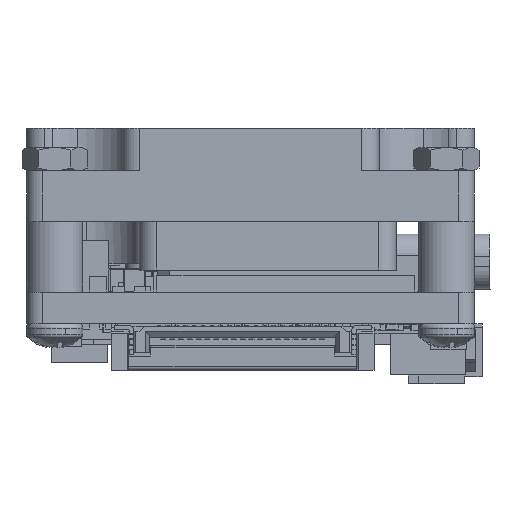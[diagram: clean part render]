
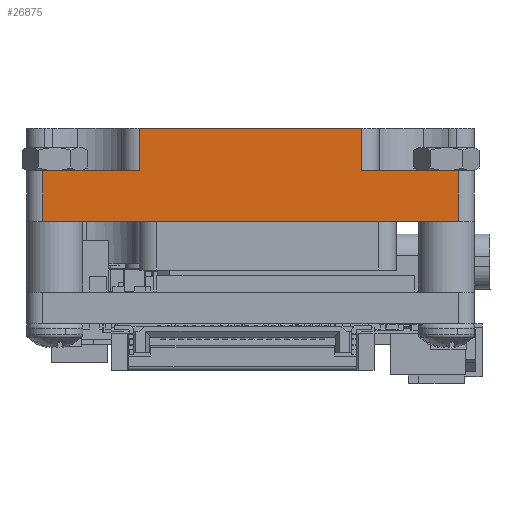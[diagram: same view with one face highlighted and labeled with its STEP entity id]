
A CAD part, left-side view. The second image highlights one B-rep face of the part: STEP entity #26875.
In plain terms, the highlighted planar face has unit normal (-1, 0, 0).
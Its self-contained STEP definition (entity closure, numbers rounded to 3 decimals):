
#2130 = LINE ( 'NONE', #85213, #111600 ) ;
#10606 = DIRECTION ( 'NONE',  ( 0., -1., 0. ) ) ;
#10812 = CARTESIAN_POINT ( 'NONE',  ( -1.587, 0., 6. ) ) ;
#10897 = DIRECTION ( 'NONE',  ( 0., 0., -1. ) ) ;
#11137 = EDGE_CURVE ( 'NONE', #54597, #116504, #93857, .T. ) ;
#12473 = CARTESIAN_POINT ( 'NONE',  ( -1.587, 4.815, 6. ) ) ;
#16349 = CARTESIAN_POINT ( 'NONE',  ( -1.587, 0., 0.71 ) ) ;
#18497 = FACE_OUTER_BOUND ( 'NONE', #95487, .T. ) ;
#19673 = PLANE ( 'NONE',  #58612 ) ;
#20852 = VECTOR ( 'NONE', #84827, 1000. ) ;
#25442 = LINE ( 'NONE', #16349, #37320 ) ;
#26875 = ADVANCED_FACE ( 'NONE', ( #18497 ), #19673, .F. ) ;
#27482 = EDGE_CURVE ( 'NONE', #116504, #52017, #101859, .T. ) ;
#27546 = VERTEX_POINT ( 'NONE', #28523 ) ;
#28382 = EDGE_CURVE ( 'NONE', #98155, #27546, #111583, .T. ) ;
#28523 = CARTESIAN_POINT ( 'NONE',  ( -1.587, 17.41, 3.6 ) ) ;
#28799 = DIRECTION ( 'NONE',  ( 1., 0., 0. ) ) ;
#30927 = CARTESIAN_POINT ( 'NONE',  ( -1.587, 0., 3.6 ) ) ;
#31595 = EDGE_CURVE ( 'NONE', #52017, #68586, #2130, .T. ) ;
#37320 = VECTOR ( 'NONE', #100011, 1000. ) ;
#37679 = VECTOR ( 'NONE', #104254, 1000. ) ;
#38545 = CARTESIAN_POINT ( 'NONE',  ( -1.587, 22.924, 63.796 ) ) ;
#43104 = CARTESIAN_POINT ( 'NONE',  ( -1.588, -0.699, 3.6 ) ) ;
#43498 = ORIENTED_EDGE ( 'NONE', *, *, #31595, .F. ) ;
#46143 = DIRECTION ( 'NONE',  ( 0., 0., -1. ) ) ;
#46531 = CARTESIAN_POINT ( 'NONE',  ( -1.588, -0.699, 0.71 ) ) ;
#49292 = EDGE_CURVE ( 'NONE', #81594, #91893, #25442, .T. ) ;
#52017 = VERTEX_POINT ( 'NONE', #65232 ) ;
#52682 = LINE ( 'NONE', #53292, #82079 ) ;
#53292 = CARTESIAN_POINT ( 'NONE',  ( -1.587, 17.41, 63.796 ) ) ;
#53399 = LINE ( 'NONE', #81332, #111111 ) ;
#54597 = VERTEX_POINT ( 'NONE', #62592 ) ;
#55473 = CARTESIAN_POINT ( 'NONE',  ( -1.587, 0., 63.796 ) ) ;
#58612 = AXIS2_PLACEMENT_3D ( 'NONE', #55473, #28799, #65728 ) ;
#62592 = CARTESIAN_POINT ( 'NONE',  ( -1.587, 17.41, 6. ) ) ;
#62738 = ORIENTED_EDGE ( 'NONE', *, *, #11137, .F. ) ;
#63858 = VECTOR ( 'NONE', #100945, 1000. ) ;
#65232 = CARTESIAN_POINT ( 'NONE',  ( -1.587, 4.815, 3.6 ) ) ;
#65728 = DIRECTION ( 'NONE',  ( 0., 0., -1. ) ) ;
#68586 = VERTEX_POINT ( 'NONE', #43104 ) ;
#70280 = EDGE_CURVE ( 'NONE', #91893, #98155, #74901, .T. ) ;
#72465 = ORIENTED_EDGE ( 'NONE', *, *, #49292, .F. ) ;
#74002 = CARTESIAN_POINT ( 'NONE',  ( -1.587, 4.815, 63.796 ) ) ;
#74901 = LINE ( 'NONE', #38545, #63858 ) ;
#75754 = CARTESIAN_POINT ( 'NONE',  ( -1.587, 22.924, 0.71 ) ) ;
#81332 = CARTESIAN_POINT ( 'NONE',  ( -1.588, -0.699, 63.796 ) ) ;
#81594 = VERTEX_POINT ( 'NONE', #46531 ) ;
#82079 = VECTOR ( 'NONE', #88519, 1000. ) ;
#84827 = DIRECTION ( 'NONE',  ( 0., -1., 0. ) ) ;
#85213 = CARTESIAN_POINT ( 'NONE',  ( -1.587, 0., 3.6 ) ) ;
#88519 = DIRECTION ( 'NONE',  ( 0., 0., 1. ) ) ;
#90408 = ORIENTED_EDGE ( 'NONE', *, *, #111276, .F. ) ;
#91761 = ORIENTED_EDGE ( 'NONE', *, *, #28382, .F. ) ;
#91893 = VERTEX_POINT ( 'NONE', #75754 ) ;
#93857 = LINE ( 'NONE', #10812, #20852 ) ;
#94561 = ORIENTED_EDGE ( 'NONE', *, *, #113674, .F. ) ;
#95487 = EDGE_LOOP ( 'NONE', ( #94561, #91761, #103756, #72465, #90408, #43498, #105454, #62738 ) ) ;
#98155 = VERTEX_POINT ( 'NONE', #117742 ) ;
#100011 = DIRECTION ( 'NONE',  ( 0., 1., 0. ) ) ;
#100945 = DIRECTION ( 'NONE',  ( 0., 0., 1. ) ) ;
#101859 = LINE ( 'NONE', #74002, #109083 ) ;
#103756 = ORIENTED_EDGE ( 'NONE', *, *, #70280, .F. ) ;
#104254 = DIRECTION ( 'NONE',  ( 0., -1., 0. ) ) ;
#105454 = ORIENTED_EDGE ( 'NONE', *, *, #27482, .F. ) ;
#109083 = VECTOR ( 'NONE', #46143, 1000. ) ;
#111111 = VECTOR ( 'NONE', #10897, 1000. ) ;
#111276 = EDGE_CURVE ( 'NONE', #68586, #81594, #53399, .T. ) ;
#111583 = LINE ( 'NONE', #30927, #37679 ) ;
#111600 = VECTOR ( 'NONE', #10606, 1000. ) ;
#113674 = EDGE_CURVE ( 'NONE', #27546, #54597, #52682, .T. ) ;
#116504 = VERTEX_POINT ( 'NONE', #12473 ) ;
#117742 = CARTESIAN_POINT ( 'NONE',  ( -1.587, 22.924, 3.6 ) ) ;
